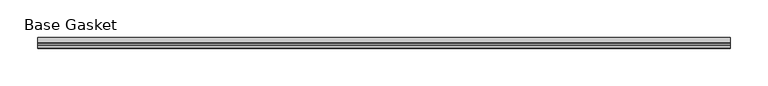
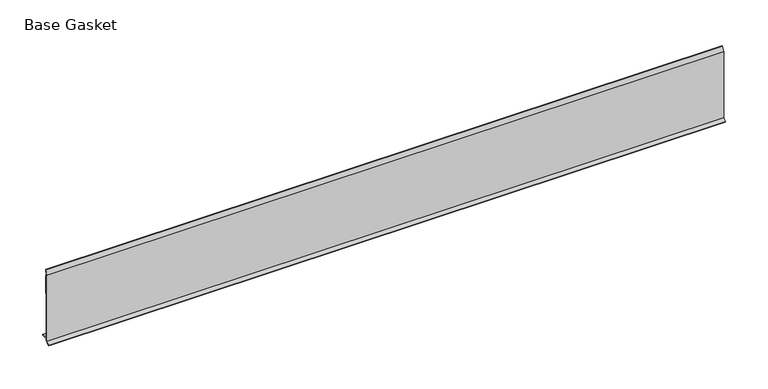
"""IFC4 building model written with IfcOpenShell, lengths in millimetres: furniture geometry, Gasket-Teknion-FHGB-AI_Healthcare-R2021 : Base Gasket."""

import ifcopenshell
import ifcopenshell.guid

model = None  # the IFC model being written
_history = None  # IfcOwnerHistory: only IFC2X3 demands one
_inside = {}  # id of a spatial element -> (the spatial element, [elements in it])
_under = {}  # id of a project, library or spatial element -> (it, [spatial elements below it])
_declared = {}  # id of a project -> (the project, [libraries it declares])
_typed = {}  # id of a type object -> (the type object, [elements of that type])
_made_of = {}  # id of a material, layer set ... -> (it, [elements and type objects made of it])


def new_model(schema):
    """Start an empty IFC model of exactly this schema.

    Asked for "IFC4X3", IfcOpenShell would pick the latest addendum, in which some entities
    have other attributes; the version numbers below select the first issue.
    IFC2X3 requires an IfcOwnerHistory on every rooted entity: one is made here for all.
    """
    global model, _history
    if schema == "IFC4X3":
        model = ifcopenshell.file(schema_version=(4, 3, 0, 0))
    else:
        model = ifcopenshell.file(schema=schema)
    _inside.clear()
    _under.clear()
    _declared.clear()
    _typed.clear()
    _made_of.clear()
    _history = None
    if model.schema == "IFC2X3":
        org = make("IfcOrganization", Name="unknown")
        user = make(
            "IfcPersonAndOrganization",
            ThePerson=make("IfcPerson", FamilyName="unknown"),
            TheOrganization=org,
        )
        app = make(
            "IfcApplication",
            ApplicationDeveloper=org,
            Version="unknown",
            ApplicationFullName="unknown",
            ApplicationIdentifier="unknown",
        )
        _history = make(
            "IfcOwnerHistory",
            OwningUser=user,
            OwningApplication=app,
            ChangeAction="ADDED",
            CreationDate=0,
        )
    return model


def make(cls, **values):
    """One entity of the class cls with the attributes given. An attribute that is None is left unset."""
    return model.create_entity(
        cls, **{name: value for name, value in values.items() if value is not None}
    )


def rooted(cls, **values):
    """An entity with a GlobalId (a new one), such as an element, a storey or a relation."""
    return make(cls, GlobalId=ifcopenshell.guid.new(), OwnerHistory=_history, **values)


def si_unit(unit_type, name, prefix=None):
    """IfcSIUnit, for example si_unit("LENGTHUNIT", "METRE", prefix="MILLI")."""
    return make("IfcSIUnit", UnitType=unit_type, Prefix=prefix, Name=name)


def assignment(units):
    """IfcUnitAssignment: the units of a project."""
    return None if units is None else make("IfcUnitAssignment", Units=units)


def point(xyz):
    """IfcCartesianPoint."""
    return None if xyz is None else make("IfcCartesianPoint", Coordinates=xyz)


def direction(xyz):
    """IfcDirection."""
    return None if xyz is None else make("IfcDirection", DirectionRatios=xyz)


def frame(location, z_axis=None, x_axis=None):
    """IfcAxis2Placement3D, a coordinate frame: its origin and axes. An axis left out is left unset."""
    return make(
        "IfcAxis2Placement3D",
        Location=point(location),
        Axis=direction(z_axis),
        RefDirection=direction(x_axis),
    )


def origin():
    """The frame at (0, 0, 0) with its axes left unset."""
    return frame((0.0, 0.0, 0.0))


def place(relative_to, where):
    """IfcLocalPlacement: puts the frame where relative to a parent placement (None: the world)."""
    return make(
        "IfcLocalPlacement", PlacementRelTo=relative_to, RelativePlacement=where
    )


def context(
    kind, dimensions, precision=None, world=None, true_north=None, identifier=None
):
    """IfcGeometricRepresentationContext, for example the 3D "Model" context."""
    return make(
        "IfcGeometricRepresentationContext",
        ContextIdentifier=identifier,
        ContextType=kind,
        CoordinateSpaceDimension=dimensions,
        Precision=precision,
        WorldCoordinateSystem=world,
        TrueNorth=true_north,
    )


def project(units=None, contexts=None):
    """IfcProject with its units and contexts."""
    return rooted(
        "IfcProject",
        Name="project",
        RepresentationContexts=contexts,
        UnitsInContext=assignment(units),
    )


def spatial(cls, under=None, at=None, **own):
    """A site, building, storey or space (cls), placed at a placement, below another one or the project."""
    s = rooted(cls, ObjectPlacement=at, **own)
    if under is not None:
        _under.setdefault(under.id(), (under, []))[1].append(s)
    return s


def polyline(points):
    """IfcPolyline through the points."""
    return make("IfcPolyline", Points=[point(p) for p in points])


def outline(outer, holes=None, kind="AREA"):
    """IfcArbitraryClosedProfileDef: a profile drawn as a closed curve; with holes, ...WithVoids."""
    if holes is None:
        return make("IfcArbitraryClosedProfileDef", ProfileType=kind, OuterCurve=outer)
    return make(
        "IfcArbitraryProfileDefWithVoids",
        ProfileType=kind,
        OuterCurve=outer,
        InnerCurves=holes,
    )


def extrude(swept, where, along, depth):
    """IfcExtrudedAreaSolid: the profile swept, set in the frame where, extruded along a direction by depth."""
    return make(
        "IfcExtrudedAreaSolid",
        SweptArea=swept,
        Position=where,
        ExtrudedDirection=direction(along),
        Depth=depth,
    )


def shape(context_of_items, identifier, shape_type, items):
    """IfcShapeRepresentation: the items that make up one representation, for example the "Body"."""
    return make(
        "IfcShapeRepresentation",
        ContextOfItems=context_of_items,
        RepresentationIdentifier=identifier,
        RepresentationType=shape_type,
        Items=items,
    )


def source(mapping_origin, context_of_items, identifier, shape_type, items):
    """IfcRepresentationMap: a shape defined once, which mapped items show again and again."""
    return make(
        "IfcRepresentationMap",
        MappingOrigin=mapping_origin,
        MappedRepresentation=shape(context_of_items, identifier, shape_type, items),
    )


def transform(
    local_origin,
    x_axis=None,
    y_axis=None,
    z_axis=None,
    scale=None,
    scale2=None,
    scale3=None,
    uniform=True,
):
    """IfcCartesianTransformationOperator3D, or its non-uniform kind. x_axis, y_axis, z_axis: its Axis1, 2, 3."""
    if uniform:
        return make(
            "IfcCartesianTransformationOperator3D",
            Axis1=direction(x_axis),
            Axis2=direction(y_axis),
            LocalOrigin=point(local_origin),
            Scale=scale,
            Axis3=direction(z_axis),
        )
    return make(
        "IfcCartesianTransformationOperator3DnonUniform",
        Axis1=direction(x_axis),
        Axis2=direction(y_axis),
        LocalOrigin=point(local_origin),
        Scale=scale,
        Axis3=direction(z_axis),
        Scale2=scale2,
        Scale3=scale3,
    )


def mapped(mapping_source, mapping_target):
    """IfcMappedItem: shows the shape of a source again, moved by a transform."""
    return make(
        "IfcMappedItem", MappingSource=mapping_source, MappingTarget=mapping_target
    )


def made_of(thing, what):
    """Note that an element or type object is made of a material, layer set ...; save() writes the relation."""
    if what is not None:
        _made_of.setdefault(what.id(), (what, []))[1].append(thing)
    return thing


def element(
    cls,
    number,
    at=None,
    inside=None,
    cuts=None,
    type_object=None,
    material=None,
    context=None,
    identifier="Body",
    shape_type=None,
    held_by="IfcProductDefinitionShape",
    body=None,
    shapes=None,
    **own,
):
    """One element of the class cls, such as IfcWall. Its Tag is "e" and its number.

    at: its placement. inside: the storey or other place that contains it. cuts: it is an
    opening in that element (IfcRelVoidsElement). A single representation is given by context,
    identifier, shape_type and body (its items); several are given by shapes. held_by: the class
    of the entity that holds the representations. save() writes the other relations.
    """
    e = rooted(cls, Tag="e%d" % number, ObjectPlacement=at, **own)
    if body is not None:
        shapes = [shape(context, identifier, shape_type, body)]
    if shapes is not None:
        e.Representation = make(held_by, Representations=shapes)
    if inside is not None:
        _inside.setdefault(inside.id(), (inside, []))[1].append(e)
    if cuts is not None:
        rooted(
            "IfcRelVoidsElement", RelatingBuildingElement=cuts, RelatedOpeningElement=e
        )
    if type_object is not None:
        _typed.setdefault(type_object.id(), (type_object, []))[1].append(e)
    return made_of(e, material)


def aggregate(whole, parts):
    """IfcRelAggregates: a whole, such as a stair, and the parts it consists of."""
    return rooted("IfcRelAggregates", RelatingObject=whole, RelatedObjects=parts)


def save(model, path):
    """Write the relations noted so far, then the file.

    IfcRelAggregates (storeys below a building ...), IfcRelContainedInSpatialStructure (elements
    in a storey), IfcRelDefinesByType, IfcRelAssociatesMaterial and IfcRelDeclares: one each for
    every whole, place, type object, material and project.
    """
    for whole, parts in _under.values():
        aggregate(whole, parts)
    for where, things in _inside.values():
        rooted(
            "IfcRelContainedInSpatialStructure",
            RelatedElements=things,
            RelatingStructure=where,
        )
    for kind, things in _typed.values():
        rooted("IfcRelDefinesByType", RelatedObjects=things, RelatingType=kind)
    for what, things in _made_of.values():
        rooted("IfcRelAssociatesMaterial", RelatedObjects=things, RelatingMaterial=what)
    for by, libraries in _declared.values():
        rooted("IfcRelDeclares", RelatingContext=by, RelatedDefinitions=libraries)
    model.write(path)


def base_gasket_22999de0(model_context):
    return source(origin(), model_context, "Body", "SweptSolid", [
        extrude(outline(polyline([(-3.7283812, 98.4568417), (-1.1891543, 104.587663), (-0.6755308, 105.2002997), (-0.6755308, 104.4162708), (-2.2043812, 98.4568417), (-2.2043812, 96.8693477), (-1.4106313, 96.8693477), (-1.4106313, 71.4693447), (-2.2043812, 71.4693447), (-2.2043812, 7.9398773), (6.2405171, 7.9398773), (6.2405171, 6.3818476), (-2.1334222, 6.3818476), (-2.2043812, 4.3498477), (-6.8281054, 0.3520979), (-7.8482342, 0.0), (-7.4222115, 0.6560174), (-3.7283812, 4.3498477), (-3.7283812, 98.4568417)])), frame((-1527.8982117, 0.0, 0.0), z_axis=(1.0, 0.0, 0.0), x_axis=(0.0, 1.0, 0.0)), (0.0, 0.0, 1.0), 914.5704326),
    ])


if __name__ == "__main__":
    model = new_model("IFC4")
    model_context = context("Model", 3, world=origin())
    ifc_project = project(units=[si_unit("LENGTHUNIT", "METRE", prefix="MILLI")], contexts=[model_context])
    site = spatial("IfcSite", under=ifc_project)
    building = spatial("IfcBuilding", under=site)
    placement = place(None, origin())
    base_gasket_shape = base_gasket_22999de0(model_context)
    element("IfcFurniture", 1, ObjectType="Gasket-Teknion-FHGB-AI_Healthcare-R2021 : Base Gasket", at=placement, inside=building, context=model_context, shape_type="MappedRepresentation", body=[
        mapped(base_gasket_shape, transform((0.0, 0.0, 0.0), x_axis=(1.0, 0.0, 0.0), y_axis=(0.0, 1.0, 0.0), z_axis=(0.0, 0.0, 1.0))),
    ])
    save(model, "model.ifc")
